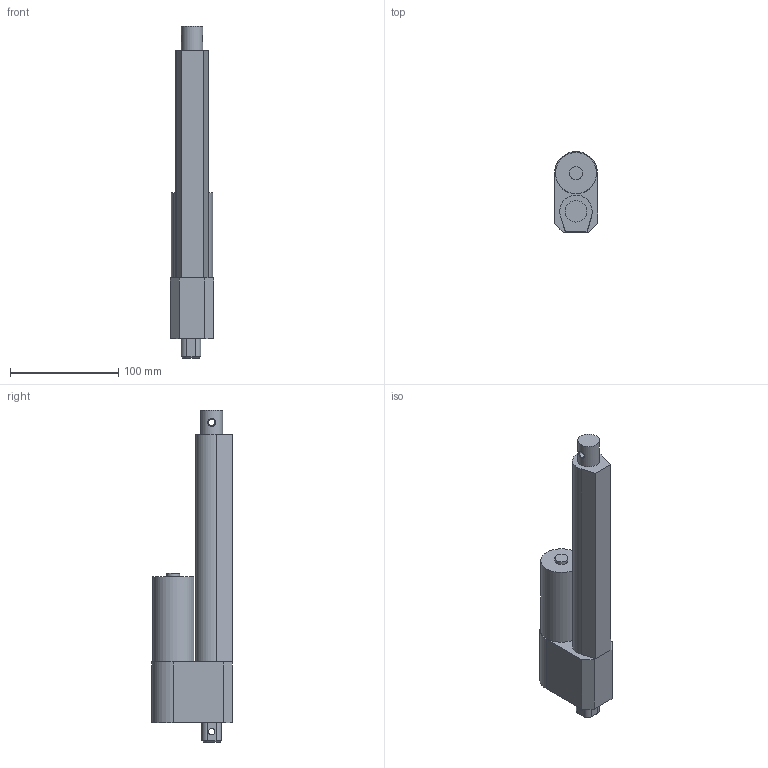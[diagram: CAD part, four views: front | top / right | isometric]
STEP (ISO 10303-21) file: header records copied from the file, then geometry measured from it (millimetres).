
FILE_DESCRIPTION(/* description */ ('Alibre Inc.'),/* implementation_level */ '2;1');
FILE_NAME(/* name */ 'export0',/* time_stamp */ '2013-08-15T14:13:35-06:00',/* author */ (''),/* organization */ (''),/* preprocessor_version */ 'ST-DEVELOPER v14',/* originating_system */ 'Alibre',/* authorisation */ '');
FILE_SCHEMA (('ALIBRE_SCHEMA','CONFIG_CONTROL_DESIGN'));
Length unit declared in the file: centimetre
Products named in the file (1): ID_1
Bounding box: 40 x 74.57 x 307 mm (x, y, z)
Volume: 431172.9 mm3; surface area: 51847.4 mm2
Topology: 1 solids, 1 shells, 41 faces, 96 edges, 60 vertices
Faces by surface type: plane 24, cylinder 11, cone 4, bspline 2
Full cylindrical faces by diameter (mm): 6 x2, 12 x1, 20 x1, 38 x1
Entity records: 3936 total; most frequent: CARTESIAN_POINT 1082, DIRECTION 269, CONSTRAINTPAIRUV 227, REFERENCEDEPENDENTUV 201, ORIENTED_EDGE 176, VECTOR 156, REFERENCEPOINTUV 129, LINE 109
